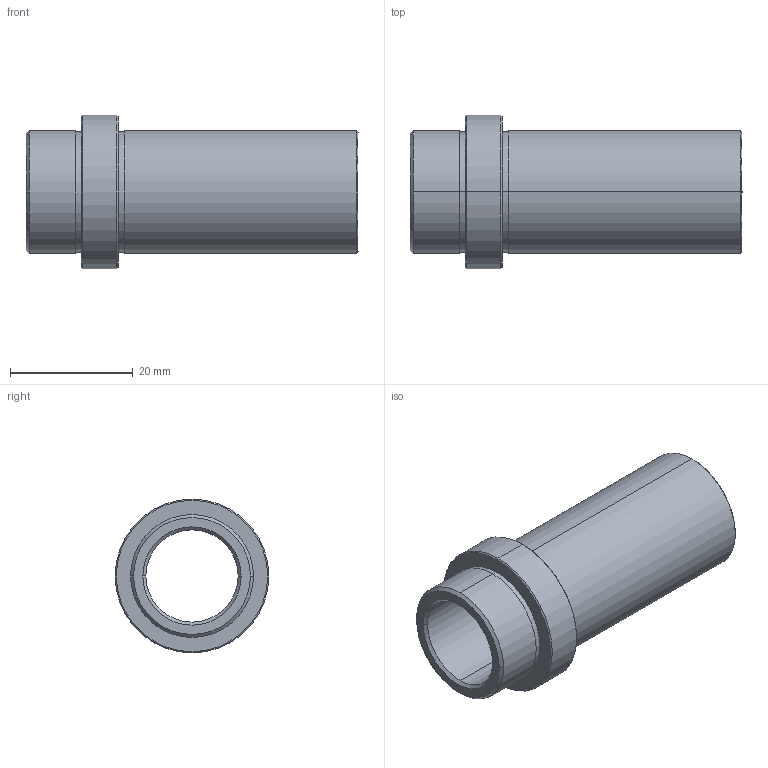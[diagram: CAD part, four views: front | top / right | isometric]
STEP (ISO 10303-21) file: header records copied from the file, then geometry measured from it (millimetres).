
FILE_DESCRIPTION (( 'STEP AP203' ), '1' );
FILE_NAME ('018 Bague de Guidage.STEP', '2021-10-27T18:24:03', ( '' ), ( '' ), 'SwSTEP 2.0', 'SolidWorks 2019', '' );
FILE_SCHEMA (( 'CONFIG_CONTROL_DESIGN' ));
Length unit declared in the file: millimetre
Products named in the file (1): 018 Bague de Guidage
Bounding box: 54 x 25 x 25 mm (x, y, z)
Volume: 8387.1 mm3; surface area: 6607 mm2
Topology: 1 solids, 1 shells, 30 faces, 70 edges, 46 vertices
Faces by surface type: bspline 12, cylinder 12, plane 6
Entity records: 1019 total; most frequent: CARTESIAN_POINT 247, DIRECTION 156, ORIENTED_EDGE 140, EDGE_CURVE 70, AXIS2_PLACEMENT_3D 67, CIRCLE 48, VERTEX_POINT 46, EDGE_LOOP 36
